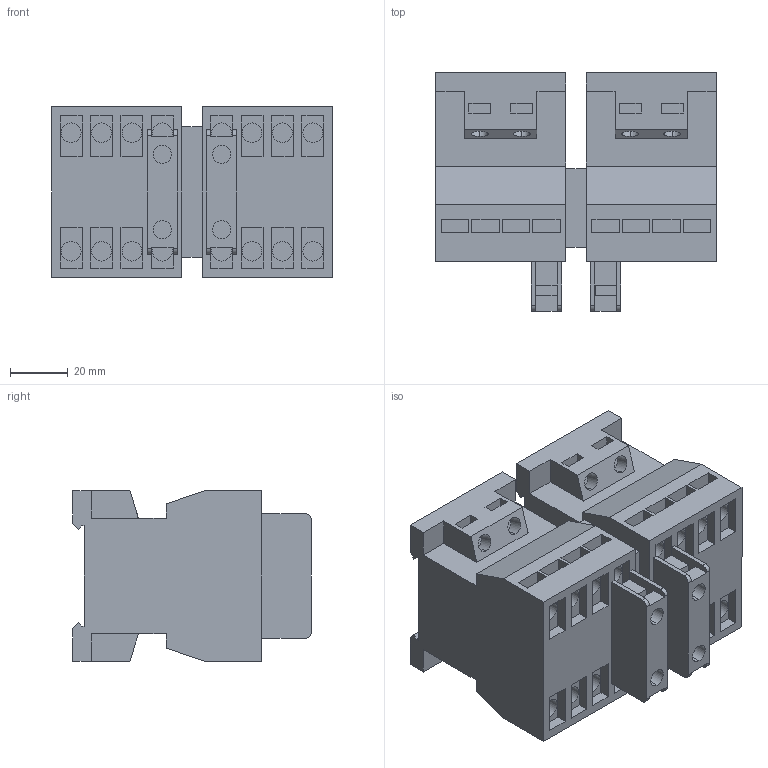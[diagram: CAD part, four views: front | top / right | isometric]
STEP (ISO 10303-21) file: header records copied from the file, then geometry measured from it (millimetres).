
FILE_DESCRIPTION (( 'STEP AP203' ), '1' );
FILE_NAME ('K3W10_18.STEP', '2014-03-10T13:57:44', ( '' ), ( '' ), 'SwSTEP 2.0', 'SolidWorks 2014', '' );
FILE_SCHEMA (( 'CONFIG_CONTROL_DESIGN' ));
Length unit declared in the file: millimetre
Products named in the file (4): Imported; Imported_2; Imported_3; K3W10_18
Assembly tree (3 placements, depth 2):
  K3W10_18
    Imported
    Imported_2
    Imported_3
Bounding box: 97 x 82.5 x 59 mm (x, y, z)
Volume: 298738.9 mm3; surface area: 57609.6 mm2
Topology: 3 solids, 3 shells, 356 faces, 926 edges, 616 vertices
Faces by surface type: plane 300, cylinder 56
Entity records: 11264 total; most frequent: CARTESIAN_POINT 1904, ORIENTED_EDGE 1852, DIRECTION 1762, EDGE_CURVE 926, VECTOR 814, LINE 814, VERTEX_POINT 616, AXIS2_PLACEMENT_3D 474
